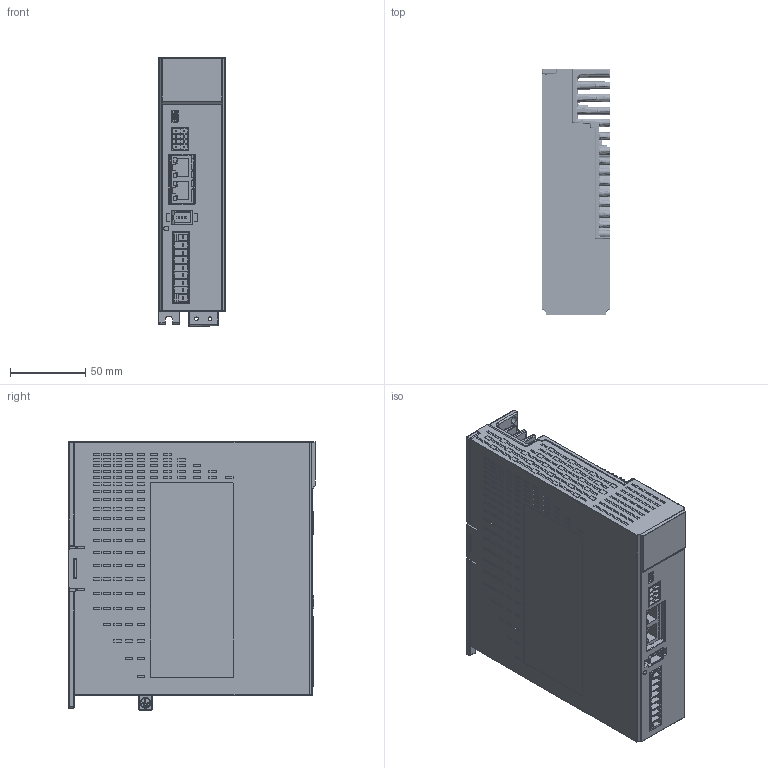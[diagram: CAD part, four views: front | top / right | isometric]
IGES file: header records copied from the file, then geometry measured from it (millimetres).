
Start section: SolidWorks IGES file using analytic representation for surfaces
Bounding box: 45 x 163.6 x 178.14 mm (x, y, z)
Surface area: 235316.1 mm2 (no closed solid volume)
Topology: 0 solids, 0 shells, 4739 faces, 31701 edges, 31603 vertices
Faces by surface type: bspline 3459, revolution 1280
